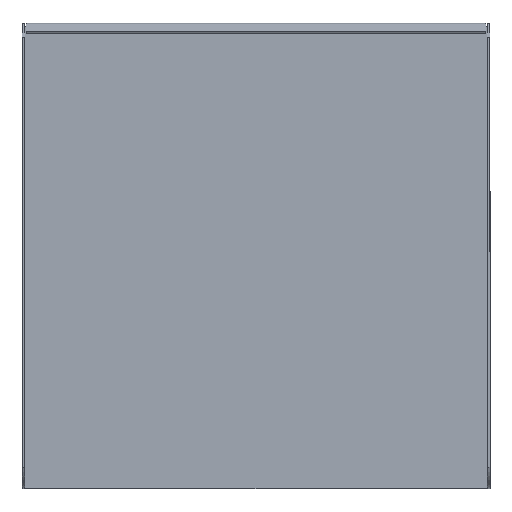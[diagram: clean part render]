
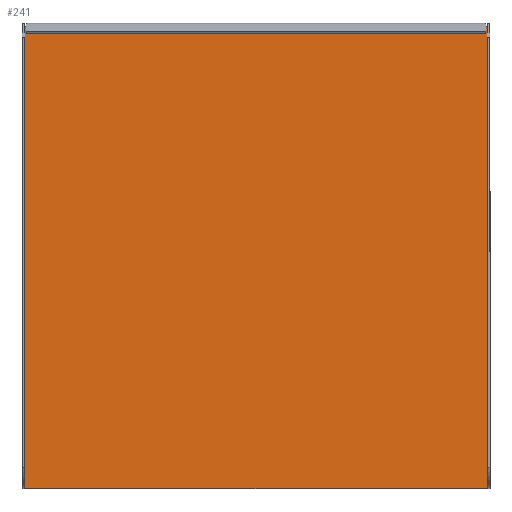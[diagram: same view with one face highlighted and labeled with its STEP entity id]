
A CAD part, front view. The second image highlights one B-rep face of the part: STEP entity #241.
In plain terms, the highlighted planar face has unit normal (0, -1, 0).
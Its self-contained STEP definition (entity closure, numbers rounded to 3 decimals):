
#9 = ORIENTED_EDGE ( 'NONE', *, *, #1257, .F. ) ;
#15 = EDGE_CURVE ( 'NONE', #851, #605, #1277, .T. ) ;
#92 = CARTESIAN_POINT ( 'NONE',  ( 247., 0., 247. ) ) ;
#105 = LINE ( 'NONE', #239, #1440 ) ;
#118 = ORIENTED_EDGE ( 'NONE', *, *, #1343, .F. ) ;
#228 = CARTESIAN_POINT ( 'NONE',  ( -247., 0., -247. ) ) ;
#230 = DIRECTION ( 'NONE',  ( 0., 0., -1. ) ) ;
#239 = CARTESIAN_POINT ( 'NONE',  ( -247., 0., 247. ) ) ;
#241 = ADVANCED_FACE ( 'NONE', ( #873 ), #1181, .T. ) ;
#292 = ORIENTED_EDGE ( 'NONE', *, *, #1053, .F. ) ;
#333 = ORIENTED_EDGE ( 'NONE', *, *, #15, .F. ) ;
#348 = VECTOR ( 'NONE', #1129, 1000. ) ;
#379 = VECTOR ( 'NONE', #1435, 1000. ) ;
#482 = DIRECTION ( 'NONE',  ( 0., -1., 0. ) ) ;
#605 = VERTEX_POINT ( 'NONE', #975 ) ;
#616 = LINE ( 'NONE', #228, #1180 ) ;
#705 = VERTEX_POINT ( 'NONE', #92 ) ;
#771 = CARTESIAN_POINT ( 'NONE',  ( 247., 0., 247. ) ) ;
#851 = VERTEX_POINT ( 'NONE', #1175 ) ;
#873 = FACE_OUTER_BOUND ( 'NONE', #1421, .T. ) ;
#942 = AXIS2_PLACEMENT_3D ( 'NONE', #1410, #482, #230 ) ;
#975 = CARTESIAN_POINT ( 'NONE',  ( -247., 0., 247. ) ) ;
#1045 = CARTESIAN_POINT ( 'NONE',  ( -247., 0., 247. ) ) ;
#1053 = EDGE_CURVE ( 'NONE', #605, #705, #105, .T. ) ;
#1129 = DIRECTION ( 'NONE',  ( 0., 0., -1. ) ) ;
#1161 = LINE ( 'NONE', #771, #348 ) ;
#1175 = CARTESIAN_POINT ( 'NONE',  ( -247., 0., -247. ) ) ;
#1180 = VECTOR ( 'NONE', #1275, 1000. ) ;
#1181 = PLANE ( 'NONE',  #942 ) ;
#1222 = DIRECTION ( 'NONE',  ( 1., 0., 0. ) ) ;
#1257 = EDGE_CURVE ( 'NONE', #1645, #851, #616, .T. ) ;
#1275 = DIRECTION ( 'NONE',  ( -1., 0., 0. ) ) ;
#1277 = LINE ( 'NONE', #1045, #379 ) ;
#1343 = EDGE_CURVE ( 'NONE', #705, #1645, #1161, .T. ) ;
#1410 = CARTESIAN_POINT ( 'NONE',  ( 0., 0., 0. ) ) ;
#1421 = EDGE_LOOP ( 'NONE', ( #118, #292, #333, #9 ) ) ;
#1435 = DIRECTION ( 'NONE',  ( 0., 0., 1. ) ) ;
#1440 = VECTOR ( 'NONE', #1222, 1000. ) ;
#1589 = CARTESIAN_POINT ( 'NONE',  ( 247., 0., -247. ) ) ;
#1645 = VERTEX_POINT ( 'NONE', #1589 ) ;
